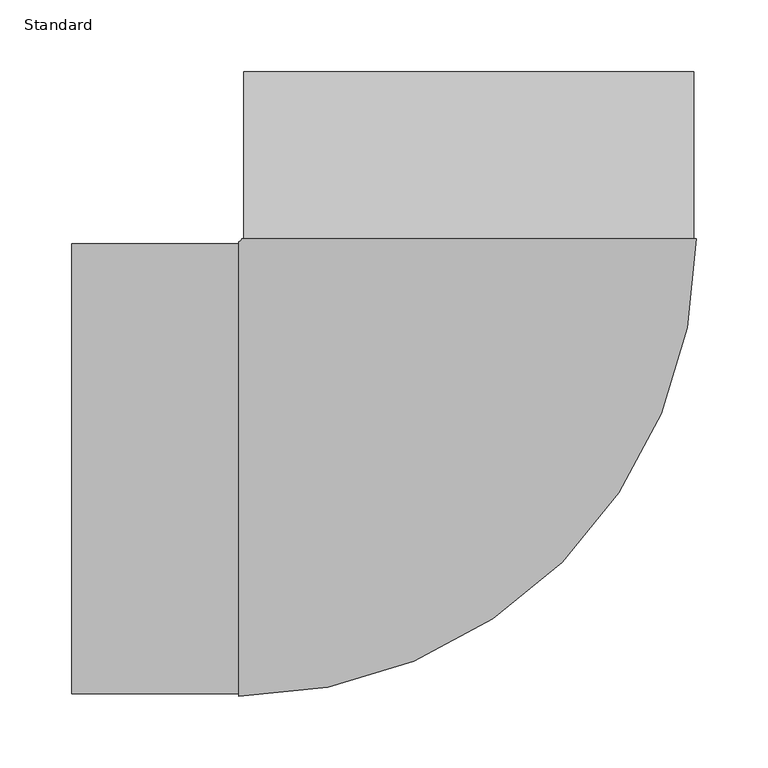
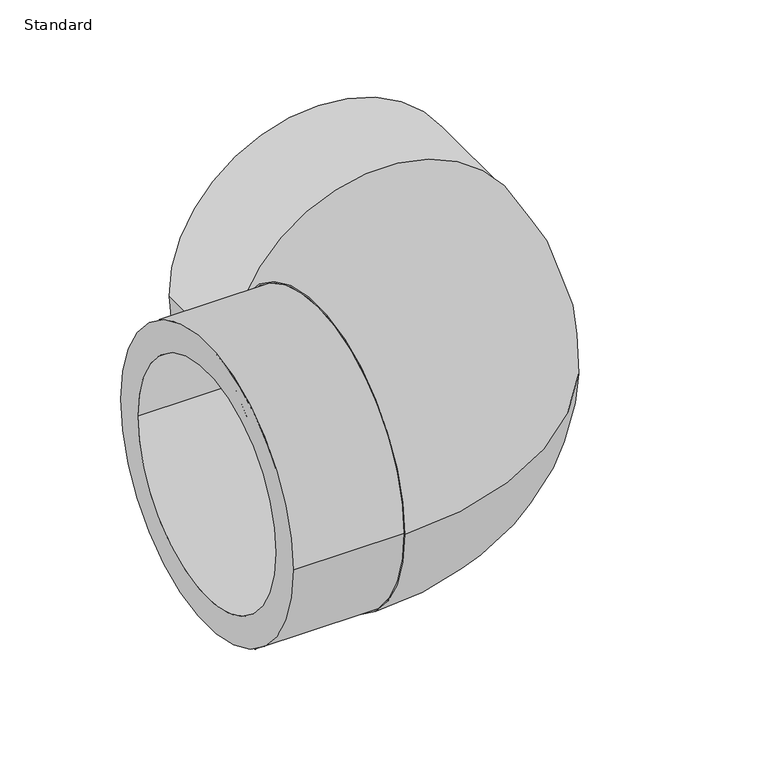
"""IFC4 building model written with IfcOpenShell, lengths in millimetres: pipe fitting geometry, EGB_VASEN_ PPR_Codo a tope 90 WXRB200_Codo a tope 45 WXRB220 : Standard."""

from ifc_helpers import new_model, si_unit, point, frame, origin, place, context, project, spatial, polyline, circle_curve, ellipse_curve, trimmed, source, transform, mapped, element, save
from ifc_brep_helpers import plane_surface, cylinder_surface, revolved_surface, advanced_brep


def standard_4f69abff(model_context):
    return source(origin(), model_context, "Body", "AdvancedBrep", [
        advanced_brep(
        [(-276.0, -156.5, 0.0), (-276.0, 156.5, 0.0), (-276.0, -125.0, 0.0), (-276.0, 125.0, 0.0), (-160.0, -156.5, 0.0), (-160.0, 156.5, 0.0), (-160.0, -125.0, 0.0), (-160.0, 125.0, 0.0), (-160.0, -158.0, 0.0), (-160.0, 158.0, 0.0), (158.0, 160.0, 0.0), (-158.0, 160.0, 0.0), (156.5, 160.0, 0.0), (-156.5, 160.0, 0.0), (125.0, 160.0, 0.0), (-125.0, 160.0, 0.0), (156.5, 276.0, 0.0), (-156.5, 276.0, 0.0), (125.0, 276.0, 0.0), (-125.0, 276.0, 0.0)],
        [
            (0, 1, circle_curve(frame((-276.0, 0.0, 0.0), z_axis=(-1.0, 0.0, 0.0), x_axis=(0.0, 1.0, 0.0)), 156.5)),
            (1, 0, circle_curve(frame((-276.0, 0.0, 0.0), z_axis=(-1.0, 0.0, 0.0), x_axis=(0.0, 1.0, 0.0)), 156.5)),
            (2, 3, circle_curve(frame((-276.0, 0.0, 0.0), z_axis=(1.0, 0.0, 0.0), x_axis=(0.0, 1.0, 0.0)), 125.0)),
            (3, 2, circle_curve(frame((-276.0, 0.0, 0.0), z_axis=(1.0, 0.0, 0.0), x_axis=(0.0, 1.0, 0.0)), 125.0)),
            (0, 4),
            (4, 5, circle_curve(frame((-160.0, 0.0, 0.0), z_axis=(-1.0, 0.0, 0.0), x_axis=(0.0, 1.0, 0.0)), 156.5)),
            (5, 1),
            (5, 4, circle_curve(frame((-160.0, 0.0, 0.0), z_axis=(-1.0, 0.0, 0.0), x_axis=(0.0, 1.0, 0.0)), 156.5)),
            (2, 6),
            (6, 7, circle_curve(frame((-160.0, 0.0, 0.0), z_axis=(1.0, 0.0, 0.0), x_axis=(0.0, 1.0, 0.0)), 125.0)),
            (7, 3),
            (7, 6, circle_curve(frame((-160.0, 0.0, 0.0), z_axis=(1.0, 0.0, 0.0), x_axis=(0.0, 1.0, 0.0)), 125.0)),
            (8, 9, circle_curve(frame((-160.0, 0.0, 0.0), z_axis=(-1.0, 0.0, 0.0), x_axis=(0.0, 1.0, 0.0)), 158.0)),
            (9, 8, circle_curve(frame((-160.0, 0.0, 0.0), z_axis=(-1.0, 0.0, 0.0), x_axis=(0.0, 1.0, 0.0)), 158.0)),
            (10, 11, circle_curve(frame((0.0, 160.0, 0.0), z_axis=(0.0, 1.0, 0.0), x_axis=(-1.0, 0.0, 0.0)), 158.0)),
            (11, 10, circle_curve(frame((0.0, 160.0, 0.0), z_axis=(0.0, 1.0, 0.0), x_axis=(-1.0, 0.0, 0.0)), 158.0)),
            (12, 13, circle_curve(frame((0.0, 160.0, 0.0), z_axis=(0.0, -1.0, 0.0), x_axis=(-1.0, 0.0, 0.0)), 156.5)),
            (13, 12, circle_curve(frame((0.0, 160.0, 0.0), z_axis=(0.0, -1.0, 0.0), x_axis=(-1.0, 0.0, 0.0)), 156.5)),
            (14, 15, circle_curve(frame((0.0, 160.0, 0.0), z_axis=(0.0, 1.0, 0.0), x_axis=(-1.0, 0.0, 0.0)), 125.0)),
            (15, 14, circle_curve(frame((0.0, 160.0, 0.0), z_axis=(0.0, 1.0, 0.0), x_axis=(-1.0, 0.0, 0.0)), 125.0)),
            (8, 10, circle_curve(frame((-160.0, 160.0, 0.0), z_axis=(0.0, 0.0, 1.0), x_axis=(0.0, -1.0, 0.0)), 318.0)),
            (11, 9, circle_curve(frame((-160.0, 160.0, 0.0), z_axis=(0.0, 0.0, -1.0), x_axis=(0.0, -1.0, 0.0)), 2.0)),
            (16, 17, circle_curve(frame((0.0, 276.0, 0.0), z_axis=(0.0, 1.0, 0.0), x_axis=(-1.0, 0.0, 0.0)), 156.5)),
            (17, 16, circle_curve(frame((0.0, 276.0, 0.0), z_axis=(0.0, 1.0, 0.0), x_axis=(-1.0, 0.0, 0.0)), 156.5)),
            (18, 19, circle_curve(frame((0.0, 276.0, 0.0), z_axis=(0.0, -1.0, 0.0), x_axis=(-1.0, 0.0, 0.0)), 125.0)),
            (19, 18, circle_curve(frame((0.0, 276.0, 0.0), z_axis=(0.0, -1.0, 0.0), x_axis=(-1.0, 0.0, 0.0)), 125.0)),
            (17, 13),
            (12, 16),
            (19, 15),
            (14, 18),
        ],
        [
            plane_surface(frame((-276.0, 0.0, 0.0), z_axis=(-1.0, 0.0, 0.0), x_axis=(0.0, 0.0, 1.0))),
            cylinder_surface(frame((-276.0, 0.0, 0.0), z_axis=(-1.0, 0.0, 0.0), x_axis=(0.0, 1.0, 0.0)), 156.5),
            revolved_surface(polyline([(-160.0, 125.0, 0.0), (-276.0, 125.0, 0.0)]), (-276.0, 0.0, 0.0), (1.0, 0.0, 0.0)),
            plane_surface(frame((-160.0, 0.0, 0.0), z_axis=(-1.0, 0.0, 0.0), x_axis=(0.0, 0.0, 1.0))),
            plane_surface(frame((0.0, 160.0, 0.0), z_axis=(0.0, 1.0, 0.0), x_axis=(0.0, 0.0, 1.0))),
            revolved_surface(trimmed(ellipse_curve(frame((-160.0, 0.0, 0.0), z_axis=(-1.0, 0.0, 0.0), x_axis=(0.0, 1.0, 0.0)), 158.0, 158.0), [point((-160.0, -158.0, 0.0))], [point((-160.0, 158.0, 0.0))], True, "CARTESIAN"), (-160.0, 160.0, 0.0), (0.0, 0.0, 1.0)),
            revolved_surface(trimmed(ellipse_curve(frame((-160.0, 0.0, 0.0), z_axis=(-1.0, 0.0, 0.0), x_axis=(0.0, 1.0, 0.0)), 158.0, 158.0), [point((-160.0, 158.0, 0.0))], [point((-160.0, -158.0, 0.0))], True, "CARTESIAN"), (-160.0, 160.0, 0.0), (0.0, 0.0, 1.0)),
            plane_surface(frame((0.0, 276.0, 0.0), z_axis=(0.0, 1.0, 0.0), x_axis=(0.0, 0.0, 1.0))),
            cylinder_surface(frame((0.0, 160.0, 0.0), z_axis=(0.0, -1.0, 0.0), x_axis=(-1.0, 0.0, 0.0)), 156.5),
            revolved_surface(polyline([(-125.0, 276.0, 0.0), (-125.0, 160.0, 0.0)]), (0.0, 160.0, 0.0), (0.0, 1.0, 0.0)),
        ],
        [
            (0, [[1, 2], [3, 4]]),
            (1, [[-1, 5, 6, 7]]),
            (1, [[-2, -7, 8, -5]]),
            (2, [[-3, 9, 10, 11]]),
            (2, [[-4, -11, 12, -9]]),
            (3, [[-10, -12]]),
            (3, [[13, 14], [-6, -8]]),
            (4, [[15, 16], [17, 18]]),
            (4, [[19, 20]]),
            (5, [[-13, 21, -16, 22]]),
            (6, [[-14, -22, -15, -21]]),
            (7, [[23, 24], [25, 26]]),
            (8, [[-24, 27, -17, 28]]),
            (8, [[-23, -28, -18, -27]]),
            (9, [[-26, 29, -19, 30]]),
            (9, [[-25, -30, -20, -29]]),
        ],
    ),
    ])


if __name__ == "__main__":
    model = new_model("IFC4")
    model_context = context("Model", 3, world=origin())
    ifc_project = project(units=[si_unit("LENGTHUNIT", "METRE", prefix="MILLI")], contexts=[model_context])
    site = spatial("IfcSite", under=ifc_project)
    building = spatial("IfcBuilding", under=site)
    placement = place(None, origin())
    standard_shape = standard_4f69abff(model_context)
    element("IfcPipeFitting", 1, ObjectType="EGB_VASEN_ PPR_Codo a tope 90 WXRB200_Codo a tope 45 WXRB220 : Standard", at=placement, inside=building, context=model_context, shape_type="MappedRepresentation", body=[
        mapped(standard_shape, transform((0.0, 0.0, 0.0), x_axis=(1.0, 0.0, 0.0), y_axis=(0.0, 1.0, 0.0), z_axis=(0.0, 0.0, 1.0))),
    ])
    save(model, "model.ifc")
